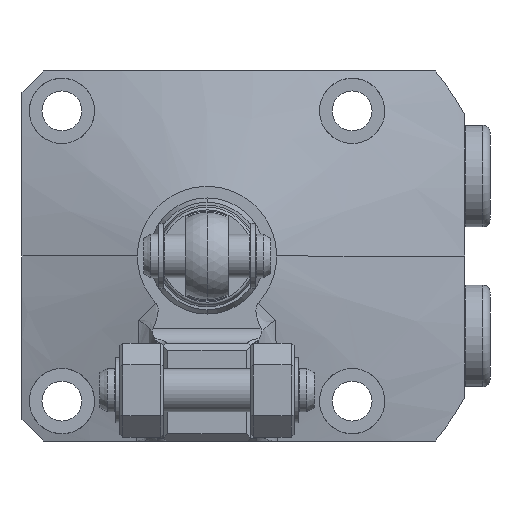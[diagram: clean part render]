
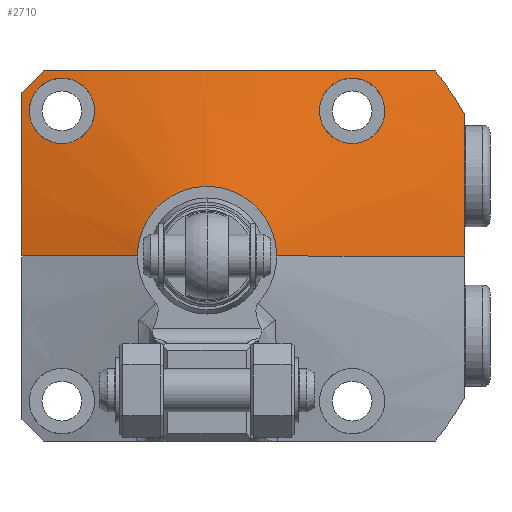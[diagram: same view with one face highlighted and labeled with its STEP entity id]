
A CAD part, left-side view. The second image highlights one B-rep face of the part: STEP entity #2710.
In plain terms, the highlighted conical face has half-angle 75 degrees and reference radius 4 mm.
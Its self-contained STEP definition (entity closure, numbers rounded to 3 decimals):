
#1358=B_SPLINE_CURVE_WITH_KNOTS('',3,(#10456,#10457,#10458,#10459,#10460,
#10461,#10462,#10463,#10464,#10465),.UNSPECIFIED.,.F.,.F.,(4,2,2,2,4),(0.,
0.25,0.5,0.75,1.),.UNSPECIFIED.);
#1359=B_SPLINE_CURVE_WITH_KNOTS('',3,(#10474,#10475,#10476,#10477,#10478,
#10479,#10480,#10481,#10482,#10483),.UNSPECIFIED.,.F.,.F.,(4,2,2,2,4),(0.,
0.25,0.5,0.75,1.),.UNSPECIFIED.);
#1368=B_SPLINE_CURVE_WITH_KNOTS('',3,(#10783,#10784,#10785,#10786),
 .UNSPECIFIED.,.F.,.F.,(4,4),(0.,1.),.UNSPECIFIED.);
#1369=B_SPLINE_CURVE_WITH_KNOTS('',3,(#10790,#10791,#10792,#10793,#10794,
#10795,#10796,#10797),.UNSPECIFIED.,.F.,.F.,(4,2,2,4),(0.,0.5,0.75,1.),
 .UNSPECIFIED.);
#1370=B_SPLINE_CURVE_WITH_KNOTS('',3,(#10799,#10800,#10801,#10802),
 .UNSPECIFIED.,.F.,.F.,(4,4),(0.,1.),.UNSPECIFIED.);
#1371=B_SPLINE_CURVE_WITH_KNOTS('',3,(#10804,#10805,#10806,#10807),
 .UNSPECIFIED.,.F.,.F.,(4,4),(0.,1.),.UNSPECIFIED.);
#1372=B_SPLINE_CURVE_WITH_KNOTS('',3,(#10808,#10809,#10810,#10811,#10812,
#10813,#10814,#10815,#10816,#10817),.UNSPECIFIED.,.F.,.F.,(4,2,2,2,4),(0.,
0.25,0.5,0.75,1.),.UNSPECIFIED.);
#1373=B_SPLINE_CURVE_WITH_KNOTS('',3,(#10818,#10819,#10820,#10821,#10822,
#10823,#10824,#10825,#10826,#10827),.UNSPECIFIED.,.F.,.F.,(4,2,2,2,4),(0.,
0.25,0.5,0.75,1.),.UNSPECIFIED.);
#1456=CONICAL_SURFACE('',#7409,4.,75.);
#1716=FACE_BOUND('',#3473,.T.);
#1717=FACE_BOUND('',#3474,.T.);
#1718=FACE_BOUND('',#3475,.T.);
#2103=LINE('',#10730,#2401);
#2104=LINE('',#10781,#2402);
#2401=VECTOR('',#8960,1.);
#2402=VECTOR('',#8965,1.);
#2710=ADVANCED_FACE('',(#1716,#1717,#1718),#1456,.T.);
#3473=EDGE_LOOP('',(#4631,#4632,#4633,#4634,#4635,#4636,#4637,#4638));
#3474=EDGE_LOOP('',(#4639,#4640));
#3475=EDGE_LOOP('',(#4641,#4642));
#4631=ORIENTED_EDGE('',*,*,#6209,.F.);
#4632=ORIENTED_EDGE('',*,*,#6215,.T.);
#4633=ORIENTED_EDGE('',*,*,#6216,.T.);
#4634=ORIENTED_EDGE('',*,*,#6217,.T.);
#4635=ORIENTED_EDGE('',*,*,#6218,.F.);
#4636=ORIENTED_EDGE('',*,*,#6219,.T.);
#4637=ORIENTED_EDGE('',*,*,#6220,.T.);
#4638=ORIENTED_EDGE('',*,*,#6221,.T.);
#4639=ORIENTED_EDGE('',*,*,#6122,.T.);
#4640=ORIENTED_EDGE('',*,*,#6222,.T.);
#4641=ORIENTED_EDGE('',*,*,#6118,.T.);
#4642=ORIENTED_EDGE('',*,*,#6223,.T.);
#5462=VERTEX_POINT('',#10455);
#5463=VERTEX_POINT('',#10466);
#5466=VERTEX_POINT('',#10473);
#5467=VERTEX_POINT('',#10484);
#5537=VERTEX_POINT('',#10729);
#5538=VERTEX_POINT('',#10731);
#5543=VERTEX_POINT('',#10780);
#5544=VERTEX_POINT('',#10782);
#5545=VERTEX_POINT('',#10787);
#5546=VERTEX_POINT('',#10789);
#5547=VERTEX_POINT('',#10798);
#5548=VERTEX_POINT('',#10803);
#6118=EDGE_CURVE('',#5463,#5462,#1358,.T.);
#6122=EDGE_CURVE('',#5467,#5466,#1359,.T.);
#6209=EDGE_CURVE('',#5537,#5538,#2103,.T.);
#6215=EDGE_CURVE('',#5537,#5543,#6758,.T.);
#6216=EDGE_CURVE('',#5543,#5544,#2104,.T.);
#6217=EDGE_CURVE('',#5544,#5545,#1368,.T.);
#6218=EDGE_CURVE('',#5546,#5545,#6759,.T.);
#6219=EDGE_CURVE('',#5546,#5547,#1369,.T.);
#6220=EDGE_CURVE('',#5547,#5548,#1370,.T.);
#6221=EDGE_CURVE('',#5548,#5538,#1371,.T.);
#6222=EDGE_CURVE('',#5466,#5467,#1372,.T.);
#6223=EDGE_CURVE('',#5462,#5463,#1373,.T.);
#6758=CIRCLE('',#7407,9.598);
#6759=CIRCLE('',#7408,40.5);
#7407=AXIS2_PLACEMENT_3D('',#10779,#8963,#8964);
#7408=AXIS2_PLACEMENT_3D('',#10788,#8966,#8967);
#7409=AXIS2_PLACEMENT_3D('',#10828,#8968,#8969);
#8960=DIRECTION('',(0.259,0.966,0.));
#8963=DIRECTION('',(1.,0.,0.));
#8964=DIRECTION('',(0.,0.,1.));
#8965=DIRECTION('',(0.259,-0.966,0.));
#8966=DIRECTION('',(1.,0.,0.));
#8967=DIRECTION('',(0.,-1.,0.));
#8968=DIRECTION('',(1.,0.,0.));
#8969=DIRECTION('',(0.,1.,0.));
#10455=CARTESIAN_POINT('',(-23.792,20.,15.5));
#10456=CARTESIAN_POINT('',(-22.097,20.,24.5));
#10457=CARTESIAN_POINT('',(-22.3,18.806,24.5));
#10458=CARTESIAN_POINT('',(-22.585,17.658,24.013));
#10459=CARTESIAN_POINT('',(-23.197,16.012,22.385));
#10460=CARTESIAN_POINT('',(-23.526,15.52,21.239));
#10461=CARTESIAN_POINT('',(-24.027,15.482,18.907));
#10462=CARTESIAN_POINT('',(-24.195,15.946,17.706));
#10463=CARTESIAN_POINT('',(-24.202,17.63,15.991));
#10464=CARTESIAN_POINT('',(-24.043,18.815,15.5));
#10465=CARTESIAN_POINT('',(-23.792,20.,15.5));
#10466=CARTESIAN_POINT('',(-22.097,20.,24.5));
#10473=CARTESIAN_POINT('',(-23.792,-20.,15.5));
#10474=CARTESIAN_POINT('',(-22.097,-20.,24.5));
#10475=CARTESIAN_POINT('',(-21.895,-21.192,24.5));
#10476=CARTESIAN_POINT('',(-21.785,-22.376,24.004));
#10477=CARTESIAN_POINT('',(-21.79,-24.047,22.301));
#10478=CARTESIAN_POINT('',(-21.907,-24.52,21.101));
#10479=CARTESIAN_POINT('',(-22.315,-24.478,18.739));
#10480=CARTESIAN_POINT('',(-22.603,-23.976,17.594));
#10481=CARTESIAN_POINT('',(-23.219,-22.317,15.971));
#10482=CARTESIAN_POINT('',(-23.541,-21.182,15.5));
#10483=CARTESIAN_POINT('',(-23.792,-20.,15.5));
#10484=CARTESIAN_POINT('',(-22.097,-20.,24.5));
#10729=CARTESIAN_POINT('',(-28.,9.598,0.));
#10730=CARTESIAN_POINT('',(-29.5,4.,0.));
#10731=CARTESIAN_POINT('',(-23.739,25.5,0.));
#10779=CARTESIAN_POINT('',(-28.,0.,0.));
#10780=CARTESIAN_POINT('',(-28.,-9.598,0.));
#10781=CARTESIAN_POINT('',(-29.5,-4.,0.));
#10782=CARTESIAN_POINT('',(-21.06,-35.5,0.));
#10783=CARTESIAN_POINT('',(-21.06,-35.5,0.));
#10784=CARTESIAN_POINT('',(-21.06,-35.5,6.529));
#10785=CARTESIAN_POINT('',(-20.554,-35.5,13.022));
#10786=CARTESIAN_POINT('',(-19.72,-35.5,19.494));
#10787=CARTESIAN_POINT('',(-19.72,-35.5,19.494));
#10788=CARTESIAN_POINT('',(-19.72,0.,0.));
#10789=CARTESIAN_POINT('',(-19.72,-31.464,25.5));
#10790=CARTESIAN_POINT('',(-19.72,-31.464,25.5));
#10791=CARTESIAN_POINT('',(-21.569,-22.582,25.5));
#10792=CARTESIAN_POINT('',(-23.19,-13.681,25.5));
#10793=CARTESIAN_POINT('',(-23.843,-0.177,25.5));
#10794=CARTESIAN_POINT('',(-23.737,4.352,25.5));
#10795=CARTESIAN_POINT('',(-22.932,13.461,25.5));
#10796=CARTESIAN_POINT('',(-22.259,17.993,25.5));
#10797=CARTESIAN_POINT('',(-21.46,22.5,25.5));
#10798=CARTESIAN_POINT('',(-21.46,22.5,25.5));
#10799=CARTESIAN_POINT('',(-21.46,22.5,25.5));
#10800=CARTESIAN_POINT('',(-21.483,23.5,24.5));
#10801=CARTESIAN_POINT('',(-21.483,24.5,23.5));
#10802=CARTESIAN_POINT('',(-21.46,25.5,22.5));
#10803=CARTESIAN_POINT('',(-21.46,25.5,22.5));
#10804=CARTESIAN_POINT('',(-21.46,25.5,22.5));
#10805=CARTESIAN_POINT('',(-22.779,25.5,15.057));
#10806=CARTESIAN_POINT('',(-23.739,25.5,7.577));
#10807=CARTESIAN_POINT('',(-23.739,25.5,0.));
#10808=CARTESIAN_POINT('',(-23.792,-20.,15.5));
#10809=CARTESIAN_POINT('',(-24.043,-18.815,15.5));
#10810=CARTESIAN_POINT('',(-24.202,-17.631,15.992));
#10811=CARTESIAN_POINT('',(-24.196,-15.955,17.694));
#10812=CARTESIAN_POINT('',(-24.03,-15.483,18.892));
#10813=CARTESIAN_POINT('',(-23.525,-15.518,21.244));
#10814=CARTESIAN_POINT('',(-23.198,-16.009,22.382));
#10815=CARTESIAN_POINT('',(-22.584,-17.661,24.016));
#10816=CARTESIAN_POINT('',(-22.3,-18.806,24.5));
#10817=CARTESIAN_POINT('',(-22.097,-20.,24.5));
#10818=CARTESIAN_POINT('',(-23.792,20.,15.5));
#10819=CARTESIAN_POINT('',(-23.541,21.183,15.5));
#10820=CARTESIAN_POINT('',(-23.218,22.32,15.974));
#10821=CARTESIAN_POINT('',(-22.605,23.973,17.591));
#10822=CARTESIAN_POINT('',(-22.315,24.477,18.741));
#10823=CARTESIAN_POINT('',(-21.909,24.522,21.088));
#10824=CARTESIAN_POINT('',(-21.79,24.054,22.291));
#10825=CARTESIAN_POINT('',(-21.784,22.377,24.005));
#10826=CARTESIAN_POINT('',(-21.895,21.193,24.5));
#10827=CARTESIAN_POINT('',(-22.097,20.,24.5));
#10828=CARTESIAN_POINT('',(-29.5,0.,0.));
